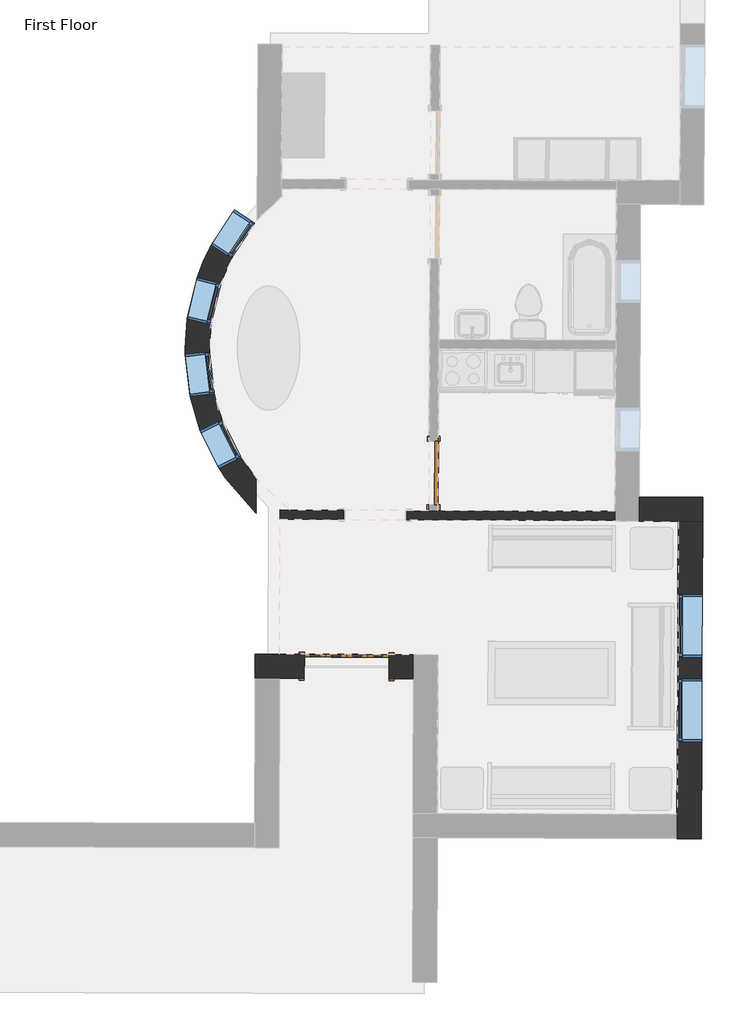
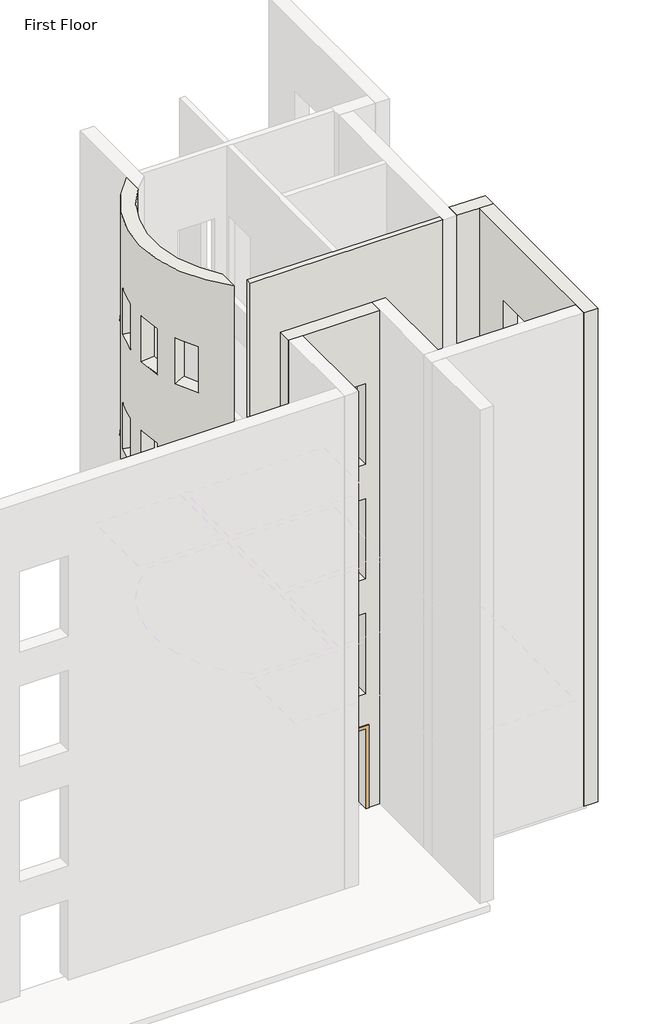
# One storey, part 8 of 23: 6 windows, 5 walls, 2 doors.
"""IFC4 building model written with IfcOpenShell, lengths in millimetres."""

from ifc_helpers import new_model, si_unit, frame, origin, place, context, project, spatial, polyline, circle_curve, faceted_brep, transform, mapped, element, save
from ifc_brep_helpers import plane_surface, cylinder_surface, revolved_surface, advanced_brep
from components import m_bifold_4_panel_1220_x_2134mm_46e1cad3, m_single_flush_0915_x_2134mm_08e0827a, m_fixed_0610_x_1220mm_2c28ef1d, m_fixed_0610_x_1220mm_1ea27827, m_fixed_0915_x_1220mm_bde29121

model = new_model("IFC4")

# Units and contexts
model_context = context("Model", 3, world=origin())
ifc_project = project(units=[si_unit("LENGTHUNIT", "METRE", prefix="MILLI")], contexts=[model_context])

# Site, building, storey
site = spatial("IfcSite", under=ifc_project)
building = spatial("IfcBuilding", under=site)
storey = spatial("IfcBuildingStorey", under=building, Name="First Floor", Elevation=0.0)

# Doors
placement = place(None, origin())
m_bifold_4_panel_1220_x_2134mm_shape = m_bifold_4_panel_1220_x_2134mm_46e1cad3(model_context)
element("IfcDoor", 1, ObjectType="M_Bifold-4 Panel : 1220 x 2134mm", at=placement, inside=storey, context=model_context, shape_type="MappedRepresentation", body=[
    mapped(m_bifold_4_panel_1220_x_2134mm_shape, transform((-9084.0085376, -31158.0124606, 0.0), x_axis=(0.9999905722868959, -0.0043422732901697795, 0.0), y_axis=(0.0043422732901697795, 0.9999905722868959, 0.0), z_axis=(0.0, 0.0, 1.0))),
])
m_single_flush_0915_x_2134mm_shape = m_single_flush_0915_x_2134mm_08e0827a(model_context)
element("IfcDoor", 2, ObjectType="M_Single-Flush : 0915 x 2134mm", at=placement, inside=storey, context=model_context, shape_type="MappedRepresentation", body=[
    mapped(m_single_flush_0915_x_2134mm_shape, transform((-7828.8792601, -28367.4362661, 0.0), x_axis=(-0.004342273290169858, -0.9999905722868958, 0.0), y_axis=(0.9999905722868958, -0.004342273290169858, 0.0), z_axis=(0.0, 0.0, 1.0))),
])

# Walls
element("IfcWall", 3, ObjectType="Exterior - Brick on Mtl. Stud", at=placement, inside=storey, context=model_context, shape_type="Brep", body=[
    faceted_brep([(-4861.2817233, -29065.3289652, 0.0), (-4296.8870443, -29067.7797442, 0.0), (-4131.8885999, -29068.4962193, 0.0), (-3946.890344, -29069.2995399, 0.0), (-3946.890344, -29069.2995399, 13107.0), (-4296.8870443, -29067.7797442, 13107.0), (-4861.2817233, -29065.3289652, 13107.0), (-4859.7619276, -28715.3322649, 0.0), (-4859.7619276, -28715.3322649, 13107.0), (-3945.3705483, -28719.3028396, 13107.0), (-3945.3705483, -28719.3028396, 0.0), (-4130.3688042, -28718.499519, 0.0), (-4860.5652482, -28900.3305208, 0.0), (-3946.1738689, -28904.3010955, 0.0), (-4131.1721248, -28903.4977749, 0.0)], [[[0, 1, 2, 3, 4, 5, 6]], [[7, 8, 9, 10, 11]], [[6, 5, 4, 9, 8]], [[0, 6, 8, 7, 12]], [[4, 3, 13, 10, 9]], [[12, 7, 11, 14]], [[3, 2, 14, 13]], [[14, 11, 10, 13]], [[2, 1, 0, 12, 14]]]),
])
element("IfcWall", 4, ObjectType="Exterior - Brick on Mtl. Stud", at=placement, inside=storey, context=model_context, shape_type="Brep", body=[
    faceted_brep([(-4296.8870443, -29067.7797442, 0.0), (-4315.2201221, -33289.7399404, 0.0), (-4315.9365972, -33454.7383849, 0.0), (-4316.7399178, -33639.7366407, 0.0), (-4316.7399178, -33639.7366407, 13107.0), (-4315.2201221, -33289.7399404, 13107.0), (-4296.8870443, -29067.7797442, 13107.0), (-4305.3931234, -31026.6612763, 915.0), (-4301.4199434, -30111.6699026, 915.0), (-4301.4199434, -30111.6699026, 2135.0), (-4305.3931234, -31026.6612763, 2135.0), (-4310.687223, -32245.849782, 915.0), (-4306.714043, -31330.8584084, 915.0), (-4306.714043, -31330.8584084, 2135.0), (-4310.687223, -32245.849782, 2135.0), (-4310.687223, -32245.849782, 10059.0), (-4306.714043, -31330.8584084, 10059.0), (-4306.714043, -31330.8584084, 11279.0), (-4310.687223, -32245.849782, 11279.0), (-4305.3931234, -31026.6612763, 10059.0), (-4301.4199434, -30111.6699026, 10059.0), (-4301.4199434, -30111.6699026, 11279.0), (-4305.3931234, -31026.6612763, 11279.0), (-4310.687223, -32245.849782, 3963.0), (-4306.714043, -31330.8584084, 3963.0), (-4306.714043, -31330.8584084, 5183.0), (-4310.687223, -32245.849782, 5183.0), (-4305.3931234, -31026.6612763, 3963.0), (-4301.4199434, -30111.6699026, 3963.0), (-4301.4199434, -30111.6699026, 5183.0), (-4305.3931234, -31026.6612763, 5183.0), (-4310.687223, -32245.849782, 7011.0), (-4306.714043, -31330.8584084, 7011.0), (-4306.714043, -31330.8584084, 8231.0), (-4310.687223, -32245.849782, 8231.0), (-4305.3931234, -31026.6612763, 7011.0), (-4301.4199434, -30111.6699026, 7011.0), (-4301.4199434, -30111.6699026, 8231.0), (-4305.3931234, -31026.6612763, 8231.0), (-3946.890344, -29069.2995399, 0.0), (-3946.890344, -29069.2995399, 13107.0), (-3966.7432175, -33641.2564364, 13107.0), (-3966.7432175, -33641.2564364, 0.0), (-3965.9398969, -33456.2581805, 0.0), (-3955.3964231, -31028.1810719, 915.0), (-3955.3964231, -31028.1810719, 2135.0), (-3951.4232431, -30113.1896983, 2135.0), (-3951.4232431, -30113.1896983, 915.0), (-3960.6905227, -32247.3695777, 915.0), (-3960.6905227, -32247.3695777, 2135.0), (-3956.7173427, -31332.378204, 2135.0), (-3956.7173427, -31332.378204, 915.0), (-3960.6905227, -32247.3695777, 10059.0), (-3960.6905227, -32247.3695777, 11279.0), (-3956.7173427, -31332.378204, 11279.0), (-3956.7173427, -31332.378204, 10059.0), (-3955.3964231, -31028.1810719, 10059.0), (-3955.3964231, -31028.1810719, 11279.0), (-3951.4232431, -30113.1896983, 11279.0), (-3951.4232431, -30113.1896983, 10059.0), (-3960.6905227, -32247.3695777, 3963.0), (-3960.6905227, -32247.3695777, 5183.0), (-3956.7173427, -31332.378204, 5183.0), (-3956.7173427, -31332.378204, 3963.0), (-3955.3964231, -31028.1810719, 3963.0), (-3955.3964231, -31028.1810719, 5183.0), (-3951.4232431, -30113.1896983, 5183.0), (-3951.4232431, -30113.1896983, 3963.0), (-3960.6905227, -32247.3695777, 7011.0), (-3960.6905227, -32247.3695777, 8231.0), (-3956.7173427, -31332.378204, 8231.0), (-3956.7173427, -31332.378204, 7011.0), (-3955.3964231, -31028.1810719, 7011.0), (-3955.3964231, -31028.1810719, 8231.0), (-3951.4232431, -30113.1896983, 8231.0), (-3951.4232431, -30113.1896983, 7011.0), (-4131.8885999, -29068.4962193, 0.0), (-4151.7414734, -33640.4531158, 0.0), (-4150.9381528, -33455.45486, 0.0)], [[[0, 1, 2, 3, 4, 5, 6], [7, 8, 9, 10], [11, 12, 13, 14], [15, 16, 17, 18], [19, 20, 21, 22], [23, 24, 25, 26], [27, 28, 29, 30], [31, 32, 33, 34], [35, 36, 37, 38]], [[39, 40, 41, 42, 43], [44, 45, 46, 47], [48, 49, 50, 51], [52, 53, 54, 55], [56, 57, 58, 59], [60, 61, 62, 63], [64, 65, 66, 67], [68, 69, 70, 71], [72, 73, 74, 75]], [[6, 5, 4, 41, 40]], [[0, 6, 40, 39, 76]], [[4, 3, 77, 42, 41]], [[45, 44, 7, 10]], [[46, 45, 10, 9]], [[47, 46, 9, 8]], [[44, 47, 8, 7]], [[49, 48, 11, 14]], [[50, 49, 14, 13]], [[51, 50, 13, 12]], [[48, 51, 12, 11]], [[76, 39, 43, 78]], [[3, 2, 78, 77]], [[78, 43, 42, 77]], [[2, 1, 0, 76, 78]], [[53, 52, 15, 18]], [[54, 53, 18, 17]], [[55, 54, 17, 16]], [[52, 55, 16, 15]], [[57, 56, 19, 22]], [[58, 57, 22, 21]], [[59, 58, 21, 20]], [[56, 59, 20, 19]], [[61, 60, 23, 26]], [[62, 61, 26, 25]], [[63, 62, 25, 24]], [[60, 63, 24, 23]], [[65, 64, 27, 30]], [[66, 65, 30, 29]], [[67, 66, 29, 28]], [[64, 67, 28, 27]], [[69, 68, 31, 34]], [[70, 69, 34, 33]], [[71, 70, 33, 32]], [[68, 71, 32, 31]], [[73, 72, 35, 38]], [[74, 73, 38, 37]], [[75, 74, 37, 36]], [[72, 75, 36, 35]]]),
])
element("IfcWall", 5, ObjectType="Exterior - Brick on Mtl. Stud", at=placement, inside=storey, context=model_context, shape_type="Brep", body=[
    faceted_brep([(-10401.236214, -30977.2909942, 13107.0), (-10051.2395137, -30978.8107899, 13107.0), (-8115.2577658, -30987.217431, 13107.0), (-8115.2577658, -30987.217431, 0.0), (-8473.2543907, -30985.6628971, 0.0), (-8473.2543907, -30985.6628971, 2134.0), (-9693.2428889, -30980.3653237, 2134.0), (-9693.2428889, -30980.3653237, 0.0), (-10051.2395137, -30978.8107899, 0.0), (-10216.2379582, -30978.0943148, 0.0), (-10401.236214, -30977.2909942, 0.0), (-8473.2543907, -30985.6628971, 9144.0), (-8473.2543907, -30985.6628971, 11278.0), (-9693.2428889, -30980.3653237, 11278.0), (-9693.2428889, -30980.3653237, 9144.0), (-8473.2543907, -30985.6628971, 3048.0), (-8473.2543907, -30985.6628971, 5182.0), (-9693.2428889, -30980.3653237, 5182.0), (-9693.2428889, -30980.3653237, 3048.0), (-8473.2543907, -30985.6628971, 6096.0), (-8473.2543907, -30985.6628971, 8230.0), (-9693.2428889, -30980.3653237, 8230.0), (-9693.2428889, -30980.3653237, 6096.0), (-8116.7775614, -31337.2141313, 13107.0), (-10052.7613374, -31328.8074814, 13107.0), (-10402.7560097, -31327.2876945, 13107.0), (-10402.7560097, -31327.2876945, 0.0), (-10217.7577538, -31328.0910151, 0.0), (-10052.7613374, -31328.8074814, 0.0), (-9694.7626845, -31330.362024, 0.0), (-9694.7626845, -31330.362024, 2134.0), (-8474.7741863, -31335.6595974, 2134.0), (-8474.7741863, -31335.6595974, 0.0), (-8116.7775614, -31337.2141313, 0.0), (-8474.7741863, -31335.6595974, 9144.0), (-9694.7626845, -31330.362024, 9144.0), (-9694.7626845, -31330.362024, 11278.0), (-8474.7741863, -31335.6595974, 11278.0), (-8474.7741863, -31335.6595974, 3048.0), (-9694.7626845, -31330.362024, 3048.0), (-9694.7626845, -31330.362024, 5182.0), (-8474.7741863, -31335.6595974, 5182.0), (-8474.7741863, -31335.6595974, 6096.0), (-9694.7626845, -31330.362024, 6096.0), (-9694.7626845, -31330.362024, 8230.0), (-8474.7741863, -31335.6595974, 8230.0), (-8473.9708658, -31150.6613415, 0.0), (-9693.959364, -31145.3637681, 0.0), (-10216.9544333, -31143.0927592, 0.0), (-8115.9742409, -31152.2158754, 0.0), (-10401.9526891, -31142.2894386, 0.0)], [[[0, 1, 2, 3, 4, 5, 6, 7, 8, 9, 10], [11, 12, 13, 14], [15, 16, 17, 18], [19, 20, 21, 22]], [[23, 24, 25, 26, 27, 28, 29, 30, 31, 32, 33], [34, 35, 36, 37], [38, 39, 40, 41], [42, 43, 44, 45]], [[2, 1, 0, 25, 24, 23]], [[31, 5, 4, 46, 32]], [[5, 31, 30, 6]], [[6, 30, 29, 47, 7]], [[27, 48, 47, 29, 28]], [[49, 33, 32, 46]], [[10, 9, 48, 50]], [[27, 26, 50, 48]], [[48, 9, 8, 7, 47]], [[3, 49, 46, 4]], [[12, 11, 34, 37]], [[13, 12, 37, 36]], [[14, 13, 36, 35]], [[11, 14, 35, 34]], [[16, 15, 38, 41]], [[17, 16, 41, 40]], [[18, 17, 40, 39]], [[15, 18, 39, 38]], [[20, 19, 42, 45]], [[21, 20, 45, 44]], [[22, 21, 44, 43]], [[19, 22, 43, 42]], [[3, 2, 23, 33, 49]], [[0, 10, 50, 26, 25]]]),
])
element("IfcWall", 6, ObjectType="Exterior - Brick on Mtl. Stud", at=placement, inside=storey, context=model_context, shape_type="AdvancedBrep", body=[
    advanced_brep(
    [(-10390.2125961, -28438.6405522, 13107.0), (-10374.0738807, -24722.0243435, 13107.0), (-10371.8795021, -24216.6766394, 13107.0), (-10392.4069746, -28943.9882564, 13107.0), (-10374.0738807, -24722.0243435, 0.0), (-10390.2125961, -28438.6405522, 0.0), (-10392.4069746, -28943.9882564, 0.0), (-10371.8795021, -24216.6766394, 0.0), (-10408.8328393, -24763.4304099, 2135.0), (-10408.8328393, -24763.4304099, 915.0), (-10744.4408992, -25272.8096695, 915.0), (-10744.4408992, -25272.8096695, 2135.0), (-10899.7584089, -25632.0856121, 2135.0), (-10899.7584089, -25632.0856121, 915.0), (-11040.9088589, -26225.5302603, 915.0), (-11040.9088589, -26225.5302603, 2135.0), (-10993.64798, -27222.1927833, 915.0), (-10993.64798, -27222.1927833, 2135.0), (-11063.9799673, -26616.2609294, 2135.0), (-11063.9799673, -26616.2609294, 915.0), (-10608.3586219, -28142.5850289, 915.0), (-10608.3586219, -28142.5850289, 2135.0), (-10881.6899709, -27597.2502935, 2135.0), (-10881.6899709, -27597.2502935, 915.0), (-10993.64798, -27222.1927833, 10059.0), (-10993.64798, -27222.1927833, 11279.0), (-11063.9799673, -26616.2609294, 11279.0), (-11063.9799673, -26616.2609294, 10059.0), (-10608.3586219, -28142.5850289, 10059.0), (-10608.3586219, -28142.5850289, 11279.0), (-10881.6899709, -27597.2502935, 11279.0), (-10881.6899709, -27597.2502935, 10059.0), (-10899.7584089, -25632.0856121, 10059.0), (-11040.9088589, -26225.5302603, 10059.0), (-11040.9088589, -26225.5302603, 11279.0), (-10899.7584089, -25632.0856121, 11279.0), (-10408.8328393, -24763.4304099, 10059.0), (-10744.4408992, -25272.8096695, 10059.0), (-10744.4408992, -25272.8096695, 11279.0), (-10408.8328393, -24763.4304099, 11279.0), (-10993.64798, -27222.1927833, 3963.0), (-10993.64798, -27222.1927833, 5183.0), (-11063.9799673, -26616.2609294, 5183.0), (-11063.9799673, -26616.2609294, 3963.0), (-10608.3586219, -28142.5850289, 3963.0), (-10608.3586219, -28142.5850289, 5183.0), (-10881.6899709, -27597.2502935, 5183.0), (-10881.6899709, -27597.2502935, 3963.0), (-10899.7584089, -25632.0856121, 3963.0), (-11040.9088589, -26225.5302603, 3963.0), (-11040.9088589, -26225.5302603, 5183.0), (-10899.7584089, -25632.0856121, 5183.0), (-10408.8328393, -24763.4304099, 3963.0), (-10744.4408992, -25272.8096695, 3963.0), (-10744.4408992, -25272.8096695, 5183.0), (-10408.8328393, -24763.4304099, 5183.0), (-10993.64798, -27222.1927833, 7011.0), (-10993.64798, -27222.1927833, 8231.0), (-11063.9799673, -26616.2609294, 8231.0), (-11063.9799673, -26616.2609294, 7011.0), (-10608.3586219, -28142.5850289, 7011.0), (-10608.3586219, -28142.5850289, 8231.0), (-10881.6899709, -27597.2502935, 8231.0), (-10881.6899709, -27597.2502935, 7011.0), (-10899.7584089, -25632.0856121, 7011.0), (-11040.9088589, -26225.5302603, 7011.0), (-11040.9088589, -26225.5302603, 8231.0), (-10899.7584089, -25632.0856121, 8231.0), (-10408.8328393, -24763.4304099, 7011.0), (-10744.4408992, -25272.8096695, 7011.0), (-10744.4408992, -25272.8096695, 8231.0), (-10408.8328393, -24763.4304099, 8231.0), (-10702.5789245, -24569.8937633, 915.0), (-10702.5789245, -24569.8937633, 2135.0), (-11038.1869844, -25079.2730229, 2135.0), (-11038.1869844, -25079.2730229, 915.0), (-11241.9828692, -25550.6877316, 915.0), (-11241.9828692, -25550.6877316, 2135.0), (-11383.1333192, -26144.1323798, 2135.0), (-11383.1333192, -26144.1323798, 915.0), (-11343.0734947, -27262.7514546, 915.0), (-11413.405482, -26656.8196007, 915.0), (-11413.405482, -26656.8196007, 2135.0), (-11343.0734947, -27262.7514546, 2135.0), (-10922.839317, -28300.2082777, 915.0), (-11196.170666, -27754.8735423, 915.0), (-11196.170666, -27754.8735423, 2135.0), (-10922.839317, -28300.2082777, 2135.0), (-11343.0734947, -27262.7514546, 10059.0), (-11413.405482, -26656.8196007, 10059.0), (-11413.405482, -26656.8196007, 11279.0), (-11343.0734947, -27262.7514546, 11279.0), (-10922.839317, -28300.2082777, 10059.0), (-11196.170666, -27754.8735423, 10059.0), (-11196.170666, -27754.8735423, 11279.0), (-10922.839317, -28300.2082777, 11279.0), (-11241.9828692, -25550.6877316, 10059.0), (-11241.9828692, -25550.6877316, 11279.0), (-11383.1333192, -26144.1323798, 11279.0), (-11383.1333192, -26144.1323798, 10059.0), (-10702.5789245, -24569.8937633, 10059.0), (-10702.5789245, -24569.8937633, 11279.0), (-11038.1869844, -25079.2730229, 11279.0), (-11038.1869844, -25079.2730229, 10059.0), (-11343.0734947, -27262.7514546, 3963.0), (-11413.405482, -26656.8196007, 3963.0), (-11413.405482, -26656.8196007, 5183.0), (-11343.0734947, -27262.7514546, 5183.0), (-10922.839317, -28300.2082777, 3963.0), (-11196.170666, -27754.8735423, 3963.0), (-11196.170666, -27754.8735423, 5183.0), (-10922.839317, -28300.2082777, 5183.0), (-11241.9828692, -25550.6877316, 3963.0), (-11241.9828692, -25550.6877316, 5183.0), (-11383.1333192, -26144.1323798, 5183.0), (-11383.1333192, -26144.1323798, 3963.0), (-10702.5789245, -24569.8937633, 3963.0), (-10702.5789245, -24569.8937633, 5183.0), (-11038.1869844, -25079.2730229, 5183.0), (-11038.1869844, -25079.2730229, 3963.0), (-11343.0734947, -27262.7514546, 7011.0), (-11413.405482, -26656.8196007, 7011.0), (-11413.405482, -26656.8196007, 8231.0), (-11343.0734947, -27262.7514546, 8231.0), (-10922.839317, -28300.2082777, 7011.0), (-11196.170666, -27754.8735423, 7011.0), (-11196.170666, -27754.8735423, 8231.0), (-10922.839317, -28300.2082777, 8231.0), (-11241.9828692, -25550.6877316, 7011.0), (-11241.9828692, -25550.6877316, 8231.0), (-11383.1333192, -26144.1323798, 8231.0), (-11383.1333192, -26144.1323798, 7011.0), (-10702.5789245, -24569.8937633, 7011.0), (-10702.5789245, -24569.8937633, 8231.0), (-11038.1869844, -25079.2730229, 8231.0), (-11038.1869844, -25079.2730229, 7011.0)],
    [
        (0, 1, circle_curve(frame((-8191.1013961, -26589.84664, 13107.0), z_axis=(0.0, 0.0, -1.0), x_axis=(-0.0043422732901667, -0.9999905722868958, 0.0)), 2873.0)),
        (1, 2),
        (2, 3, circle_curve(frame((-8191.1013961, -26589.84664, 13107.0), z_axis=(0.0, 0.0, 1.0), x_axis=(-0.0043422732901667, -0.9999905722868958, 0.0)), 3223.0)),
        (3, 0),
        (4, 5, circle_curve(frame((-8191.1013961, -26589.84664, 0.0), z_axis=(0.0, 0.0, 1.0), x_axis=(-0.0043422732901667, -0.9999905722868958, 0.0)), 2873.0)),
        (5, 6),
        (6, 7, circle_curve(frame((-8191.1013961, -26589.84664, 0.0), z_axis=(0.0, 0.0, -1.0), x_axis=(-0.0043422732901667, -0.9999905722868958, 0.0)), 3223.0)),
        (7, 4),
        (0, 5),
        (4, 1),
        (8, 9),
        (9, 10, circle_curve(frame((-8191.1013961, -26589.84664, 915.0), z_axis=(0.0, 0.0, 1.0), x_axis=(-0.0043422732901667, -0.9999905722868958, 0.0)), 2873.0)),
        (10, 11),
        (11, 8, circle_curve(frame((-8191.1013961, -26589.84664, 2135.0), z_axis=(0.0, 0.0, -1.0), x_axis=(-0.0043422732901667, -0.9999905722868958, 0.0)), 2873.0)),
        (12, 13),
        (13, 14, circle_curve(frame((-8191.1013961, -26589.84664, 915.0), z_axis=(0.0, 0.0, 1.0), x_axis=(-0.0043422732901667, -0.9999905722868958, 0.0)), 2873.0)),
        (14, 15),
        (15, 12, circle_curve(frame((-8191.1013961, -26589.84664, 2135.0), z_axis=(0.0, 0.0, -1.0), x_axis=(-0.0043422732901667, -0.9999905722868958, 0.0)), 2873.0)),
        (16, 17),
        (17, 18, circle_curve(frame((-8191.1013961, -26589.84664, 2135.0), z_axis=(0.0, 0.0, -1.0), x_axis=(-0.0043422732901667, -0.9999905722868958, 0.0)), 2873.0)),
        (18, 19),
        (19, 16, circle_curve(frame((-8191.1013961, -26589.84664, 915.0), z_axis=(0.0, 0.0, 1.0), x_axis=(-0.0043422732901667, -0.9999905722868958, 0.0)), 2873.0)),
        (20, 21),
        (21, 22, circle_curve(frame((-8191.1013961, -26589.84664, 2135.0), z_axis=(0.0, 0.0, -1.0), x_axis=(-0.0043422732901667, -0.9999905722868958, 0.0)), 2873.0)),
        (22, 23),
        (23, 20, circle_curve(frame((-8191.1013961, -26589.84664, 915.0), z_axis=(0.0, 0.0, 1.0), x_axis=(-0.0043422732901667, -0.9999905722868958, 0.0)), 2873.0)),
        (24, 25),
        (25, 26, circle_curve(frame((-8191.1013961, -26589.84664, 11279.0), z_axis=(0.0, 0.0, -1.0), x_axis=(-0.0043422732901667, -0.9999905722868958, 0.0)), 2873.0)),
        (26, 27),
        (27, 24, circle_curve(frame((-8191.1013961, -26589.84664, 10059.0), z_axis=(0.0, 0.0, 1.0), x_axis=(-0.0043422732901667, -0.9999905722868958, 0.0)), 2873.0)),
        (28, 29),
        (29, 30, circle_curve(frame((-8191.1013961, -26589.84664, 11279.0), z_axis=(0.0, 0.0, -1.0), x_axis=(-0.0043422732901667, -0.9999905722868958, 0.0)), 2873.0)),
        (30, 31),
        (31, 28, circle_curve(frame((-8191.1013961, -26589.84664, 10059.0), z_axis=(0.0, 0.0, 1.0), x_axis=(-0.0043422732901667, -0.9999905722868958, 0.0)), 2873.0)),
        (32, 33, circle_curve(frame((-8191.1013961, -26589.84664, 10059.0), z_axis=(0.0, 0.0, 1.0), x_axis=(-0.0043422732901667, -0.9999905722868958, 0.0)), 2873.0)),
        (33, 34),
        (34, 35, circle_curve(frame((-8191.1013961, -26589.84664, 11279.0), z_axis=(0.0, 0.0, -1.0), x_axis=(-0.0043422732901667, -0.9999905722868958, 0.0)), 2873.0)),
        (35, 32),
        (36, 37, circle_curve(frame((-8191.1013961, -26589.84664, 10059.0), z_axis=(0.0, 0.0, 1.0), x_axis=(-0.0043422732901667, -0.9999905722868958, 0.0)), 2873.0)),
        (37, 38),
        (38, 39, circle_curve(frame((-8191.1013961, -26589.84664, 11279.0), z_axis=(0.0, 0.0, -1.0), x_axis=(-0.0043422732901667, -0.9999905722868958, 0.0)), 2873.0)),
        (39, 36),
        (40, 41),
        (41, 42, circle_curve(frame((-8191.1013961, -26589.84664, 5183.0), z_axis=(0.0, 0.0, -1.0), x_axis=(-0.0043422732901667, -0.9999905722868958, 0.0)), 2873.0)),
        (42, 43),
        (43, 40, circle_curve(frame((-8191.1013961, -26589.84664, 3963.0), z_axis=(0.0, 0.0, 1.0), x_axis=(-0.0043422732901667, -0.9999905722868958, 0.0)), 2873.0)),
        (44, 45),
        (45, 46, circle_curve(frame((-8191.1013961, -26589.84664, 5183.0), z_axis=(0.0, 0.0, -1.0), x_axis=(-0.0043422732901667, -0.9999905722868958, 0.0)), 2873.0)),
        (46, 47),
        (47, 44, circle_curve(frame((-8191.1013961, -26589.84664, 3963.0), z_axis=(0.0, 0.0, 1.0), x_axis=(-0.0043422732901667, -0.9999905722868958, 0.0)), 2873.0)),
        (48, 49, circle_curve(frame((-8191.1013961, -26589.84664, 3963.0), z_axis=(0.0, 0.0, 1.0), x_axis=(-0.0043422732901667, -0.9999905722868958, 0.0)), 2873.0)),
        (49, 50),
        (50, 51, circle_curve(frame((-8191.1013961, -26589.84664, 5183.0), z_axis=(0.0, 0.0, -1.0), x_axis=(-0.0043422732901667, -0.9999905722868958, 0.0)), 2873.0)),
        (51, 48),
        (52, 53, circle_curve(frame((-8191.1013961, -26589.84664, 3963.0), z_axis=(0.0, 0.0, 1.0), x_axis=(-0.0043422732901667, -0.9999905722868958, 0.0)), 2873.0)),
        (53, 54),
        (54, 55, circle_curve(frame((-8191.1013961, -26589.84664, 5183.0), z_axis=(0.0, 0.0, -1.0), x_axis=(-0.0043422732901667, -0.9999905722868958, 0.0)), 2873.0)),
        (55, 52),
        (56, 57),
        (57, 58, circle_curve(frame((-8191.1013961, -26589.84664, 8231.0), z_axis=(0.0, 0.0, -1.0), x_axis=(-0.0043422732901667, -0.9999905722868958, 0.0)), 2873.0)),
        (58, 59),
        (59, 56, circle_curve(frame((-8191.1013961, -26589.84664, 7011.0), z_axis=(0.0, 0.0, 1.0), x_axis=(-0.0043422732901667, -0.9999905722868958, 0.0)), 2873.0)),
        (60, 61),
        (61, 62, circle_curve(frame((-8191.1013961, -26589.84664, 8231.0), z_axis=(0.0, 0.0, -1.0), x_axis=(-0.0043422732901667, -0.9999905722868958, 0.0)), 2873.0)),
        (62, 63),
        (63, 60, circle_curve(frame((-8191.1013961, -26589.84664, 7011.0), z_axis=(0.0, 0.0, 1.0), x_axis=(-0.0043422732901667, -0.9999905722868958, 0.0)), 2873.0)),
        (64, 65, circle_curve(frame((-8191.1013961, -26589.84664, 7011.0), z_axis=(0.0, 0.0, 1.0), x_axis=(-0.0043422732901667, -0.9999905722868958, 0.0)), 2873.0)),
        (65, 66),
        (66, 67, circle_curve(frame((-8191.1013961, -26589.84664, 8231.0), z_axis=(0.0, 0.0, -1.0), x_axis=(-0.0043422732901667, -0.9999905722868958, 0.0)), 2873.0)),
        (67, 64),
        (68, 69, circle_curve(frame((-8191.1013961, -26589.84664, 7011.0), z_axis=(0.0, 0.0, 1.0), x_axis=(-0.0043422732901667, -0.9999905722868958, 0.0)), 2873.0)),
        (69, 70),
        (70, 71, circle_curve(frame((-8191.1013961, -26589.84664, 8231.0), z_axis=(0.0, 0.0, -1.0), x_axis=(-0.0043422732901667, -0.9999905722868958, 0.0)), 2873.0)),
        (71, 68),
        (2, 7),
        (6, 3),
        (72, 73),
        (73, 74, circle_curve(frame((-8191.1013961, -26589.84664, 2135.0), z_axis=(0.0, 0.0, 1.0), x_axis=(-0.0043422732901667, -0.9999905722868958, 0.0)), 3223.0)),
        (74, 75),
        (75, 72, circle_curve(frame((-8191.1013961, -26589.84664, 915.0), z_axis=(0.0, 0.0, -1.0), x_axis=(-0.0043422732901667, -0.9999905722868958, 0.0)), 3223.0)),
        (76, 77),
        (77, 78, circle_curve(frame((-8191.1013961, -26589.84664, 2135.0), z_axis=(0.0, 0.0, 1.0), x_axis=(-0.0043422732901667, -0.9999905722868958, 0.0)), 3223.0)),
        (78, 79),
        (79, 76, circle_curve(frame((-8191.1013961, -26589.84664, 915.0), z_axis=(0.0, 0.0, -1.0), x_axis=(-0.0043422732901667, -0.9999905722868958, 0.0)), 3223.0)),
        (80, 81, circle_curve(frame((-8191.1013961, -26589.84664, 915.0), z_axis=(0.0, 0.0, -1.0), x_axis=(-0.0043422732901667, -0.9999905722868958, 0.0)), 3223.0)),
        (81, 82),
        (82, 83, circle_curve(frame((-8191.1013961, -26589.84664, 2135.0), z_axis=(0.0, 0.0, 1.0), x_axis=(-0.0043422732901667, -0.9999905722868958, 0.0)), 3223.0)),
        (83, 80),
        (84, 85, circle_curve(frame((-8191.1013961, -26589.84664, 915.0), z_axis=(0.0, 0.0, -1.0), x_axis=(-0.0043422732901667, -0.9999905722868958, 0.0)), 3223.0)),
        (85, 86),
        (86, 87, circle_curve(frame((-8191.1013961, -26589.84664, 2135.0), z_axis=(0.0, 0.0, 1.0), x_axis=(-0.0043422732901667, -0.9999905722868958, 0.0)), 3223.0)),
        (87, 84),
        (88, 89, circle_curve(frame((-8191.1013961, -26589.84664, 10059.0), z_axis=(0.0, 0.0, -1.0), x_axis=(-0.0043422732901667, -0.9999905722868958, 0.0)), 3223.0)),
        (89, 90),
        (90, 91, circle_curve(frame((-8191.1013961, -26589.84664, 11279.0), z_axis=(0.0, 0.0, 1.0), x_axis=(-0.0043422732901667, -0.9999905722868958, 0.0)), 3223.0)),
        (91, 88),
        (92, 93, circle_curve(frame((-8191.1013961, -26589.84664, 10059.0), z_axis=(0.0, 0.0, -1.0), x_axis=(-0.0043422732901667, -0.9999905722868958, 0.0)), 3223.0)),
        (93, 94),
        (94, 95, circle_curve(frame((-8191.1013961, -26589.84664, 11279.0), z_axis=(0.0, 0.0, 1.0), x_axis=(-0.0043422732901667, -0.9999905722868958, 0.0)), 3223.0)),
        (95, 92),
        (96, 97),
        (97, 98, circle_curve(frame((-8191.1013961, -26589.84664, 11279.0), z_axis=(0.0, 0.0, 1.0), x_axis=(-0.0043422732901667, -0.9999905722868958, 0.0)), 3223.0)),
        (98, 99),
        (99, 96, circle_curve(frame((-8191.1013961, -26589.84664, 10059.0), z_axis=(0.0, 0.0, -1.0), x_axis=(-0.0043422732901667, -0.9999905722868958, 0.0)), 3223.0)),
        (100, 101),
        (101, 102, circle_curve(frame((-8191.1013961, -26589.84664, 11279.0), z_axis=(0.0, 0.0, 1.0), x_axis=(-0.0043422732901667, -0.9999905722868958, 0.0)), 3223.0)),
        (102, 103),
        (103, 100, circle_curve(frame((-8191.1013961, -26589.84664, 10059.0), z_axis=(0.0, 0.0, -1.0), x_axis=(-0.0043422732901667, -0.9999905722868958, 0.0)), 3223.0)),
        (104, 105, circle_curve(frame((-8191.1013961, -26589.84664, 3963.0), z_axis=(0.0, 0.0, -1.0), x_axis=(-0.0043422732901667, -0.9999905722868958, 0.0)), 3223.0)),
        (105, 106),
        (106, 107, circle_curve(frame((-8191.1013961, -26589.84664, 5183.0), z_axis=(0.0, 0.0, 1.0), x_axis=(-0.0043422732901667, -0.9999905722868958, 0.0)), 3223.0)),
        (107, 104),
        (108, 109, circle_curve(frame((-8191.1013961, -26589.84664, 3963.0), z_axis=(0.0, 0.0, -1.0), x_axis=(-0.0043422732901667, -0.9999905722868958, 0.0)), 3223.0)),
        (109, 110),
        (110, 111, circle_curve(frame((-8191.1013961, -26589.84664, 5183.0), z_axis=(0.0, 0.0, 1.0), x_axis=(-0.0043422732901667, -0.9999905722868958, 0.0)), 3223.0)),
        (111, 108),
        (112, 113),
        (113, 114, circle_curve(frame((-8191.1013961, -26589.84664, 5183.0), z_axis=(0.0, 0.0, 1.0), x_axis=(-0.0043422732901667, -0.9999905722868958, 0.0)), 3223.0)),
        (114, 115),
        (115, 112, circle_curve(frame((-8191.1013961, -26589.84664, 3963.0), z_axis=(0.0, 0.0, -1.0), x_axis=(-0.0043422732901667, -0.9999905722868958, 0.0)), 3223.0)),
        (116, 117),
        (117, 118, circle_curve(frame((-8191.1013961, -26589.84664, 5183.0), z_axis=(0.0, 0.0, 1.0), x_axis=(-0.0043422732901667, -0.9999905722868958, 0.0)), 3223.0)),
        (118, 119),
        (119, 116, circle_curve(frame((-8191.1013961, -26589.84664, 3963.0), z_axis=(0.0, 0.0, -1.0), x_axis=(-0.0043422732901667, -0.9999905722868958, 0.0)), 3223.0)),
        (120, 121, circle_curve(frame((-8191.1013961, -26589.84664, 7011.0), z_axis=(0.0, 0.0, -1.0), x_axis=(-0.0043422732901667, -0.9999905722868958, 0.0)), 3223.0)),
        (121, 122),
        (122, 123, circle_curve(frame((-8191.1013961, -26589.84664, 8231.0), z_axis=(0.0, 0.0, 1.0), x_axis=(-0.0043422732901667, -0.9999905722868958, 0.0)), 3223.0)),
        (123, 120),
        (124, 125, circle_curve(frame((-8191.1013961, -26589.84664, 7011.0), z_axis=(0.0, 0.0, -1.0), x_axis=(-0.0043422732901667, -0.9999905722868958, 0.0)), 3223.0)),
        (125, 126),
        (126, 127, circle_curve(frame((-8191.1013961, -26589.84664, 8231.0), z_axis=(0.0, 0.0, 1.0), x_axis=(-0.0043422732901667, -0.9999905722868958, 0.0)), 3223.0)),
        (127, 124),
        (128, 129),
        (129, 130, circle_curve(frame((-8191.1013961, -26589.84664, 8231.0), z_axis=(0.0, 0.0, 1.0), x_axis=(-0.0043422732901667, -0.9999905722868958, 0.0)), 3223.0)),
        (130, 131),
        (131, 128, circle_curve(frame((-8191.1013961, -26589.84664, 7011.0), z_axis=(0.0, 0.0, -1.0), x_axis=(-0.0043422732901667, -0.9999905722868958, 0.0)), 3223.0)),
        (132, 133),
        (133, 134, circle_curve(frame((-8191.1013961, -26589.84664, 8231.0), z_axis=(0.0, 0.0, 1.0), x_axis=(-0.0043422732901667, -0.9999905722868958, 0.0)), 3223.0)),
        (134, 135),
        (135, 132, circle_curve(frame((-8191.1013961, -26589.84664, 7011.0), z_axis=(0.0, 0.0, -1.0), x_axis=(-0.0043422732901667, -0.9999905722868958, 0.0)), 3223.0)),
        (72, 9),
        (8, 73),
        (11, 74),
        (10, 75),
        (76, 13),
        (12, 77),
        (15, 78),
        (14, 79),
        (16, 80),
        (83, 17),
        (82, 18),
        (81, 19),
        (20, 84),
        (87, 21),
        (86, 22),
        (85, 23),
        (24, 88),
        (91, 25),
        (90, 26),
        (89, 27),
        (28, 92),
        (95, 29),
        (94, 30),
        (93, 31),
        (96, 32),
        (35, 97),
        (34, 98),
        (33, 99),
        (100, 36),
        (39, 101),
        (38, 102),
        (37, 103),
        (40, 104),
        (107, 41),
        (106, 42),
        (105, 43),
        (44, 108),
        (111, 45),
        (110, 46),
        (109, 47),
        (112, 48),
        (51, 113),
        (50, 114),
        (49, 115),
        (116, 52),
        (55, 117),
        (54, 118),
        (53, 119),
        (56, 120),
        (123, 57),
        (122, 58),
        (121, 59),
        (60, 124),
        (127, 61),
        (126, 62),
        (125, 63),
        (128, 64),
        (67, 129),
        (66, 130),
        (65, 131),
        (132, 68),
        (71, 133),
        (70, 134),
        (69, 135),
    ],
    [
        plane_surface(frame((-8203.5767472, -29462.8195542, 13107.0), z_axis=(0.0, 0.0, 1.0000000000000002), x_axis=(-0.9999905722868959, 0.004342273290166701, 0.0))),
        plane_surface(frame((-8203.5767472, -29462.8195542, 0.0), z_axis=(0.0, 0.0, -1.0000000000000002), x_axis=(0.9999905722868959, -0.004342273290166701, 0.0))),
        revolved_surface(polyline([(-8203.576747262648, -29462.819554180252, 0.0), (-8203.576747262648, -29462.819554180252, 13107.0)]), (-8191.1013961, -26589.84664, 0.0), (0.0, 0.0, -1.0)),
        cylinder_surface(frame((-8191.1013961, -26589.84664, 0.0), z_axis=(0.0, 0.0, 1.0), x_axis=(-0.0043422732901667, -0.9999905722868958, 0.0)), 3223.0),
        plane_surface(frame((-10401.9961119, -31152.2893444, 0.0), z_axis=(0.9999905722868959, -0.004342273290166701, 0.0), x_axis=(-0.004342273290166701, -0.9999905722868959, 0.0))),
        plane_surface(frame((-10362.2903649, -22008.3755514, 0.0), z_axis=(0.9999905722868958, -0.0043422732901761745, 0.0), x_axis=(-0.0043422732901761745, -0.9999905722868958, 0.0))),
        plane_surface(frame((-10702.5789245, -24569.8937633, 915.0), z_axis=(-0.5501771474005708, -0.8350479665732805, 0.0), x_axis=(0.8350479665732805, -0.5501771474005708, 0.0))),
        plane_surface(frame((-10702.5789245, -24569.8937633, 2135.0), z_axis=(0.0, 0.0, -1.0000000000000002), x_axis=(0.8350479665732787, -0.5501771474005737, 0.0))),
        plane_surface(frame((-11038.1869844, -25079.2730229, 2135.0), z_axis=(0.5501771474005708, 0.8350479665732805, 0.0), x_axis=(0.8350479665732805, -0.5501771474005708, 0.0))),
        plane_surface(frame((-11038.1869844, -25079.2730229, 915.0), z_axis=(0.0, 0.0, 1.0), x_axis=(0.8350479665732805, -0.5501771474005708, 0.0))),
        plane_surface(frame((-9757.6206762, -25903.7423798, 915.0), z_axis=(-0.23139418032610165, -0.9728600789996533, 0.0), x_axis=(-0.9728600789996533, 0.23139418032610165, 0.0))),
        plane_surface(frame((-9757.6206762, -25903.7423798, 2135.0), z_axis=(0.0, 0.0, -1.0000000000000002), x_axis=(-0.9728600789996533, 0.23139418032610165, 0.0))),
        plane_surface(frame((-9898.7711262, -26497.187028, 2135.0), z_axis=(0.23139418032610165, 0.9728600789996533, 0.0), x_axis=(-0.9728600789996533, 0.23139418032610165, 0.0))),
        plane_surface(frame((-9898.7711262, -26497.187028, 915.0), z_axis=(0.0, 0.0, 1.0000000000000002), x_axis=(-0.9728600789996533, 0.23139418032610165, 0.0))),
        plane_surface(frame((-10993.64798, -27222.1927833, 915.0), z_axis=(-0.11529833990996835, 0.9933309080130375, 0.0), x_axis=(-0.9933309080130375, -0.11529833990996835, 0.0))),
        plane_surface(frame((-10993.64798, -27222.1927833, 2135.0), z_axis=(0.0, 0.0, -1.0), x_axis=(-0.993330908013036, -0.1152983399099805, 0.0))),
        plane_surface(frame((-11063.9799673, -26616.2609294, 2135.0), z_axis=(0.1152983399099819, -0.9933309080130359, 0.0), x_axis=(-0.9933309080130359, -0.1152983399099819, 0.0))),
        plane_surface(frame((-11063.9799673, -26616.2609294, 915.0), z_axis=(0.0, 0.0, 1.0000000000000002), x_axis=(-0.9933309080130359, -0.1152983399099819, 0.0))),
        plane_surface(frame((-10608.3586219, -28142.5850289, 915.0), z_axis=(-0.4480841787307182, 0.8939913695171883, 0.0), x_axis=(-0.8939913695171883, -0.4480841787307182, 0.0))),
        plane_surface(frame((-10608.3586219, -28142.5850289, 2135.0), z_axis=(0.0, 0.0, -1.0), x_axis=(-0.8939913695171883, -0.4480841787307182, 0.0))),
        plane_surface(frame((-10881.6899709, -27597.2502935, 2135.0), z_axis=(0.44808417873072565, -0.8939913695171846, 0.0), x_axis=(-0.8939913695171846, -0.44808417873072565, 0.0))),
        plane_surface(frame((-10881.6899709, -27597.2502935, 915.0), z_axis=(0.0, 0.0, 1.0000000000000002), x_axis=(-0.8939913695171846, -0.44808417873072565, 0.0))),
        plane_surface(frame((-10993.64798, -27222.1927833, 10059.0), z_axis=(-0.1152983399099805, 0.993330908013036, 0.0), x_axis=(-0.993330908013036, -0.1152983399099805, 0.0))),
        plane_surface(frame((-10993.64798, -27222.1927833, 11279.0), z_axis=(0.0, 0.0, -1.0), x_axis=(-0.993330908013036, -0.1152983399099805, 0.0))),
        plane_surface(frame((-11063.9799673, -26616.2609294, 11279.0), z_axis=(0.11529833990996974, -0.9933309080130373, 0.0), x_axis=(-0.9933309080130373, -0.11529833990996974, 0.0))),
        plane_surface(frame((-11063.9799673, -26616.2609294, 10059.0), z_axis=(0.0, 0.0, 1.0), x_axis=(-0.9933309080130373, -0.11529833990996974, 0.0))),
        plane_surface(frame((-10608.3586219, -28142.5850289, 10059.0), z_axis=(-0.4480841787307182, 0.8939913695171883, 0.0), x_axis=(-0.8939913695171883, -0.4480841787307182, 0.0))),
        plane_surface(frame((-10608.3586219, -28142.5850289, 11279.0), z_axis=(0.0, 0.0, -1.0000000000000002), x_axis=(-0.8939913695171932, -0.4480841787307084, 0.0))),
        plane_surface(frame((-10881.6899709, -27597.2502935, 11279.0), z_axis=(0.4480841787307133, -0.8939913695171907, 0.0), x_axis=(-0.8939913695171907, -0.4480841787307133, 0.0))),
        plane_surface(frame((-10881.6899709, -27597.2502935, 10059.0), z_axis=(0.0, 0.0, 1.0), x_axis=(-0.8939913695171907, -0.4480841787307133, 0.0))),
        plane_surface(frame((-11241.9828692, -25550.6877316, 10059.0), z_axis=(-0.23139418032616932, -0.9728600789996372, 0.0), x_axis=(0.9728600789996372, -0.23139418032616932, 0.0))),
        plane_surface(frame((-11241.9828692, -25550.6877316, 11279.0), z_axis=(0.0, 0.0, -1.0000000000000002), x_axis=(0.9728600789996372, -0.23139418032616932, 0.0))),
        plane_surface(frame((-11383.1333192, -26144.1323798, 11279.0), z_axis=(0.2313941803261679, 0.9728600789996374, 0.0), x_axis=(0.9728600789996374, -0.2313941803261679, 0.0))),
        plane_surface(frame((-11383.1333192, -26144.1323798, 10059.0), z_axis=(0.0, 0.0, 1.0), x_axis=(0.9728600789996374, -0.2313941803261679, 0.0))),
        plane_surface(frame((-10702.5789245, -24569.8937633, 10059.0), z_axis=(-0.5501771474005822, -0.8350479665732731, 0.0), x_axis=(0.8350479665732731, -0.5501771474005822, 0.0))),
        plane_surface(frame((-10702.5789245, -24569.8937633, 11279.0), z_axis=(0.0, 0.0, -1.0), x_axis=(0.8350479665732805, -0.5501771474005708, 0.0))),
        plane_surface(frame((-11038.1869844, -25079.2730229, 11279.0), z_axis=(0.5501771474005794, 0.835047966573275, 0.0), x_axis=(0.835047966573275, -0.5501771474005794, 0.0))),
        plane_surface(frame((-11038.1869844, -25079.2730229, 10059.0), z_axis=(0.0, 0.0, 1.0000000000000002), x_axis=(0.835047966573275, -0.5501771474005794, 0.0))),
        plane_surface(frame((-10993.64798, -27222.1927833, 3963.0), z_axis=(-0.1152983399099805, 0.993330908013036, 0.0), x_axis=(-0.993330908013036, -0.1152983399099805, 0.0))),
        plane_surface(frame((-10993.64798, -27222.1927833, 5183.0), z_axis=(0.0, 0.0, -1.0), x_axis=(-0.993330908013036, -0.1152983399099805, 0.0))),
        plane_surface(frame((-11063.9799673, -26616.2609294, 5183.0), z_axis=(0.11529833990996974, -0.9933309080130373, 0.0), x_axis=(-0.9933309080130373, -0.11529833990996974, 0.0))),
        plane_surface(frame((-11063.9799673, -26616.2609294, 3963.0), z_axis=(0.0, 0.0, 1.0), x_axis=(-0.9933309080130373, -0.11529833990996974, 0.0))),
        plane_surface(frame((-10608.3586219, -28142.5850289, 3963.0), z_axis=(-0.4480841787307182, 0.8939913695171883, 0.0), x_axis=(-0.8939913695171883, -0.4480841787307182, 0.0))),
        plane_surface(frame((-10608.3586219, -28142.5850289, 5183.0), z_axis=(0.0, 0.0, -1.0000000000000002), x_axis=(-0.8939913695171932, -0.4480841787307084, 0.0))),
        plane_surface(frame((-10881.6899709, -27597.2502935, 5183.0), z_axis=(0.4480841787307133, -0.8939913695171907, 0.0), x_axis=(-0.8939913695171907, -0.4480841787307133, 0.0))),
        plane_surface(frame((-10881.6899709, -27597.2502935, 3963.0), z_axis=(0.0, 0.0, 1.0), x_axis=(-0.8939913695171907, -0.4480841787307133, 0.0))),
        plane_surface(frame((-11241.9828692, -25550.6877316, 3963.0), z_axis=(-0.23139418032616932, -0.9728600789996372, 0.0), x_axis=(0.9728600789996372, -0.23139418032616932, 0.0))),
        plane_surface(frame((-11241.9828692, -25550.6877316, 5183.0), z_axis=(0.0, 0.0, -1.0000000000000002), x_axis=(0.9728600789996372, -0.23139418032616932, 0.0))),
        plane_surface(frame((-11383.1333192, -26144.1323798, 5183.0), z_axis=(0.2313941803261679, 0.9728600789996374, 0.0), x_axis=(0.9728600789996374, -0.2313941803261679, 0.0))),
        plane_surface(frame((-11383.1333192, -26144.1323798, 3963.0), z_axis=(0.0, 0.0, 1.0), x_axis=(0.9728600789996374, -0.2313941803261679, 0.0))),
        plane_surface(frame((-10702.5789245, -24569.8937633, 3963.0), z_axis=(-0.5501771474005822, -0.8350479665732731, 0.0), x_axis=(0.8350479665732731, -0.5501771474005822, 0.0))),
        plane_surface(frame((-10702.5789245, -24569.8937633, 5183.0), z_axis=(0.0, 0.0, -1.0), x_axis=(0.8350479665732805, -0.5501771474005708, 0.0))),
        plane_surface(frame((-11038.1869844, -25079.2730229, 5183.0), z_axis=(0.5501771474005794, 0.835047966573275, 0.0), x_axis=(0.835047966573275, -0.5501771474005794, 0.0))),
        plane_surface(frame((-11038.1869844, -25079.2730229, 3963.0), z_axis=(0.0, 0.0, 1.0000000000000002), x_axis=(0.835047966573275, -0.5501771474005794, 0.0))),
        plane_surface(frame((-10993.64798, -27222.1927833, 7011.0), z_axis=(-0.1152983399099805, 0.993330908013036, 0.0), x_axis=(-0.993330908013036, -0.1152983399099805, 0.0))),
        plane_surface(frame((-10993.64798, -27222.1927833, 8231.0), z_axis=(0.0, 0.0, -1.0), x_axis=(-0.993330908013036, -0.1152983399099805, 0.0))),
        plane_surface(frame((-11063.9799673, -26616.2609294, 8231.0), z_axis=(0.11529833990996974, -0.9933309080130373, 0.0), x_axis=(-0.9933309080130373, -0.11529833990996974, 0.0))),
        plane_surface(frame((-11063.9799673, -26616.2609294, 7011.0), z_axis=(0.0, 0.0, 1.0), x_axis=(-0.9933309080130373, -0.11529833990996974, 0.0))),
        plane_surface(frame((-10608.3586219, -28142.5850289, 7011.0), z_axis=(-0.4480841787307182, 0.8939913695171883, 0.0), x_axis=(-0.8939913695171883, -0.4480841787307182, 0.0))),
        plane_surface(frame((-10608.3586219, -28142.5850289, 8231.0), z_axis=(0.0, 0.0, -1.0000000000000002), x_axis=(-0.8939913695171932, -0.4480841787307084, 0.0))),
        plane_surface(frame((-10881.6899709, -27597.2502935, 8231.0), z_axis=(0.4480841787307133, -0.8939913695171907, 0.0), x_axis=(-0.8939913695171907, -0.4480841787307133, 0.0))),
        plane_surface(frame((-10881.6899709, -27597.2502935, 7011.0), z_axis=(0.0, 0.0, 1.0), x_axis=(-0.8939913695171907, -0.4480841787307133, 0.0))),
        plane_surface(frame((-11241.9828692, -25550.6877316, 7011.0), z_axis=(-0.23139418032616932, -0.9728600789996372, 0.0), x_axis=(0.9728600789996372, -0.23139418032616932, 0.0))),
        plane_surface(frame((-11241.9828692, -25550.6877316, 8231.0), z_axis=(0.0, 0.0, -1.0000000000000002), x_axis=(0.9728600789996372, -0.23139418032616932, 0.0))),
        plane_surface(frame((-11383.1333192, -26144.1323798, 8231.0), z_axis=(0.2313941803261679, 0.9728600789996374, 0.0), x_axis=(0.9728600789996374, -0.2313941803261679, 0.0))),
        plane_surface(frame((-11383.1333192, -26144.1323798, 7011.0), z_axis=(0.0, 0.0, 1.0), x_axis=(0.9728600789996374, -0.2313941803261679, 0.0))),
        plane_surface(frame((-10702.5789245, -24569.8937633, 7011.0), z_axis=(-0.5501771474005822, -0.8350479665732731, 0.0), x_axis=(0.8350479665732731, -0.5501771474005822, 0.0))),
        plane_surface(frame((-10702.5789245, -24569.8937633, 8231.0), z_axis=(0.0, 0.0, -1.0), x_axis=(0.8350479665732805, -0.5501771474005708, 0.0))),
        plane_surface(frame((-11038.1869844, -25079.2730229, 8231.0), z_axis=(0.5501771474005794, 0.835047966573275, 0.0), x_axis=(0.835047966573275, -0.5501771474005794, 0.0))),
        plane_surface(frame((-11038.1869844, -25079.2730229, 7011.0), z_axis=(0.0, 0.0, 1.0000000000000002), x_axis=(0.835047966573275, -0.5501771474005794, 0.0))),
    ],
    [
        (0, [[1, 2, 3, 4]]),
        (1, [[5, 6, 7, 8]]),
        (2, [[-1, 9, -5, 10], [11, 12, 13, 14], [15, 16, 17, 18], [19, 20, 21, 22], [23, 24, 25, 26], [27, 28, 29, 30], [31, 32, 33, 34], [35, 36, 37, 38], [39, 40, 41, 42], [43, 44, 45, 46], [47, 48, 49, 50], [51, 52, 53, 54], [55, 56, 57, 58], [59, 60, 61, 62], [63, 64, 65, 66], [67, 68, 69, 70], [71, 72, 73, 74]]),
        (3, [[-3, 75, -7, 76], [77, 78, 79, 80], [81, 82, 83, 84], [85, 86, 87, 88], [89, 90, 91, 92], [93, 94, 95, 96], [97, 98, 99, 100], [101, 102, 103, 104], [105, 106, 107, 108], [109, 110, 111, 112], [113, 114, 115, 116], [117, 118, 119, 120], [121, 122, 123, 124], [125, 126, 127, 128], [129, 130, 131, 132], [133, 134, 135, 136], [137, 138, 139, 140]]),
        (4, [[-4, -76, -6, -9]]),
        (5, [[-2, -10, -8, -75]]),
        (6, [[-77, 141, -11, 142]]),
        (7, [[-78, -142, -14, 143]]),
        (8, [[-79, -143, -13, 144]]),
        (9, [[-80, -144, -12, -141]]),
        (10, [[145, -15, 146, -81]]),
        (11, [[-146, -18, 147, -82]]),
        (12, [[-147, -17, 148, -83]]),
        (13, [[-145, -84, -148, -16]]),
        (14, [[-19, 149, -88, 150]]),
        (15, [[-20, -150, -87, 151]]),
        (16, [[-21, -151, -86, 152]]),
        (17, [[-22, -152, -85, -149]]),
        (18, [[-23, 153, -92, 154]]),
        (19, [[-24, -154, -91, 155]]),
        (20, [[-25, -155, -90, 156]]),
        (21, [[-26, -156, -89, -153]]),
        (22, [[-27, 157, -96, 158]]),
        (23, [[-28, -158, -95, 159]]),
        (24, [[-29, -159, -94, 160]]),
        (25, [[-30, -160, -93, -157]]),
        (26, [[-31, 161, -100, 162]]),
        (27, [[-32, -162, -99, 163]]),
        (28, [[-33, -163, -98, 164]]),
        (29, [[-34, -164, -97, -161]]),
        (30, [[-101, 165, -38, 166]]),
        (31, [[-102, -166, -37, 167]]),
        (32, [[-103, -167, -36, 168]]),
        (33, [[-104, -168, -35, -165]]),
        (34, [[-105, 169, -42, 170]]),
        (35, [[-106, -170, -41, 171]]),
        (36, [[-107, -171, -40, 172]]),
        (37, [[-108, -172, -39, -169]]),
        (38, [[-43, 173, -112, 174]]),
        (39, [[-44, -174, -111, 175]]),
        (40, [[-45, -175, -110, 176]]),
        (41, [[-46, -176, -109, -173]]),
        (42, [[-47, 177, -116, 178]]),
        (43, [[-48, -178, -115, 179]]),
        (44, [[-49, -179, -114, 180]]),
        (45, [[-50, -180, -113, -177]]),
        (46, [[-117, 181, -54, 182]]),
        (47, [[-118, -182, -53, 183]]),
        (48, [[-119, -183, -52, 184]]),
        (49, [[-120, -184, -51, -181]]),
        (50, [[-121, 185, -58, 186]]),
        (51, [[-122, -186, -57, 187]]),
        (52, [[-123, -187, -56, 188]]),
        (53, [[-124, -188, -55, -185]]),
        (54, [[-59, 189, -128, 190]]),
        (55, [[-60, -190, -127, 191]]),
        (56, [[-61, -191, -126, 192]]),
        (57, [[-62, -192, -125, -189]]),
        (58, [[-63, 193, -132, 194]]),
        (59, [[-64, -194, -131, 195]]),
        (60, [[-65, -195, -130, 196]]),
        (61, [[-66, -196, -129, -193]]),
        (62, [[-133, 197, -70, 198]]),
        (63, [[-134, -198, -69, 199]]),
        (64, [[-135, -199, -68, 200]]),
        (65, [[-136, -200, -67, -197]]),
        (66, [[-137, 201, -74, 202]]),
        (67, [[-138, -202, -73, 203]]),
        (68, [[-139, -203, -72, 204]]),
        (69, [[-140, -204, -71, -201]]),
    ],
),
])
element("IfcWall", 7, ObjectType="Interior - 135mm Partition (2-hr)", at=placement, inside=storey, context=model_context, shape_type="Brep", body=[
    faceted_brep([(-9126.9216423, -28904.0548705, 2134.0), (-9126.9216423, -28904.0548705, 0.0), (-10042.2130131, -28900.0803877, 0.0), (-10042.2130131, -28900.0803877, 13107.0), (-7898.9832191, -28909.3869649, 13107.0), (-7763.4844965, -28909.975343, 13107.0), (-5210.6585641, -28921.0605153, 13107.0), (-5210.6585641, -28921.0605153, 0.0), (-7763.4844965, -28909.975343, 0.0), (-7898.9832191, -28909.3869649, 0.0), (-8211.9302687, -28908.0280505, 0.0), (-8211.9302687, -28908.0280505, 2134.0), (-8211.9302687, -28908.0280505, 11278.0), (-9126.9216423, -28904.0548705, 11278.0), (-9126.9216423, -28904.0548705, 9144.0), (-8211.9302687, -28908.0280505, 9144.0), (-8211.9302687, -28908.0280505, 5182.0), (-9126.9216423, -28904.0548705, 5182.0), (-9126.9216423, -28904.0548705, 3048.0), (-8211.9302687, -28908.0280505, 3048.0), (-8211.9302687, -28908.0280505, 8230.0), (-9126.9216423, -28904.0548705, 8230.0), (-9126.9216423, -28904.0548705, 6096.0), (-8211.9302687, -28908.0280505, 6096.0), (-10042.8013912, -29035.5791103, 0.0), (-9127.5100204, -29039.553593, 0.0), (-9127.5100204, -29039.553593, 2134.0), (-8212.5186467, -29043.5267731, 2134.0), (-8212.5186467, -29043.5267731, 0.0), (-5211.2469421, -29056.5592379, 0.0), (-5211.2469421, -29056.5592379, 13107.0), (-10042.8013912, -29035.5791103, 13107.0), (-8212.5186467, -29043.5267731, 11278.0), (-8212.5186467, -29043.5267731, 9144.0), (-9127.5100204, -29039.553593, 9144.0), (-9127.5100204, -29039.553593, 11278.0), (-8212.5186467, -29043.5267731, 5182.0), (-8212.5186467, -29043.5267731, 3048.0), (-9127.5100204, -29039.553593, 3048.0), (-9127.5100204, -29039.553593, 5182.0), (-8212.5186467, -29043.5267731, 8230.0), (-8212.5186467, -29043.5267731, 6096.0), (-9127.5100204, -29039.553593, 6096.0), (-9127.5100204, -29039.553593, 8230.0)], [[[0, 1, 2, 3, 4, 5, 6, 7, 8, 9, 10, 11], [12, 13, 14, 15], [16, 17, 18, 19], [20, 21, 22, 23]], [[24, 25, 26, 27, 28, 29, 30, 31], [32, 33, 34, 35], [36, 37, 38, 39], [40, 41, 42, 43]], [[2, 1, 25, 24]], [[10, 9, 8, 7, 29, 28]], [[6, 5, 4, 3, 31, 30]], [[7, 6, 30, 29]], [[3, 2, 24, 31]], [[28, 27, 11, 10]], [[26, 25, 1, 0]], [[27, 26, 0, 11]], [[33, 32, 12, 15]], [[34, 33, 15, 14]], [[35, 34, 14, 13]], [[32, 35, 13, 12]], [[37, 36, 16, 19]], [[38, 37, 19, 18]], [[39, 38, 18, 17]], [[36, 39, 17, 16]], [[41, 40, 20, 23]], [[42, 41, 23, 22]], [[43, 42, 22, 21]], [[40, 43, 21, 20]]]),
])

# Windows
m_fixed_0610_x_1220mm_shape = m_fixed_0610_x_1220mm_2c28ef1d(model_context)
element("IfcWindow", 8, ObjectType="M_Fixed : 0610 x 1220mm", at=placement, inside=storey, context=model_context, shape_type="MappedRepresentation", body=[
    mapped(m_fixed_0610_x_1220mm_shape, transform((-10733.6258869, -24914.686736, 0.0), x_axis=(-0.5501771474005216, -0.8350479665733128, 0.0), y_axis=(0.8350479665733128, -0.5501771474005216, 0.0), z_axis=(0.0, 0.0, 1.0))),
])
element("IfcWindow", 9, ObjectType="M_Fixed : 0610 x 1220mm", at=placement, inside=storey, context=model_context, shape_type="MappedRepresentation", body=[
    mapped(m_fixed_0610_x_1220mm_shape, transform((-11153.2313288, -25885.3058303, 0.0), x_axis=(-0.2313941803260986, -0.972860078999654, 0.0), y_axis=(0.972860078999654, -0.2313941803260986, 0.0), z_axis=(0.0, 0.0, 1.0))),
])
m_fixed_0610_x_1220mm_2_shape = m_fixed_0610_x_1220mm_1ea27827(model_context)
element("IfcWindow", 10, ObjectType="M_Fixed : 0610 x 1220mm", at=placement, inside=storey, context=model_context, shape_type="MappedRepresentation", body=[
    mapped(m_fixed_0610_x_1220mm_2_shape, transform((-10913.0946738, -27954.1574868, 0.0), x_axis=(-0.44808417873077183, 0.8939913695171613, 0.0), y_axis=(-0.8939913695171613, -0.44808417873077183, 0.0), z_axis=(0.0, 0.0, 1.0))),
])
element("IfcWindow", 11, ObjectType="M_Fixed : 0610 x 1220mm", at=placement, inside=storey, context=model_context, shape_type="MappedRepresentation", body=[
    mapped(m_fixed_0610_x_1220mm_2_shape, transform((-11215.5601844, -26940.9029442, 0.0), x_axis=(-0.11529833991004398, 0.9933309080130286, 0.0), y_axis=(-0.9933309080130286, -0.11529833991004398, 0.0), z_axis=(0.0, 0.0, 1.0))),
])
m_fixed_0915_x_1220mm_shape = m_fixed_0915_x_1220mm_bde29121(model_context)
element("IfcWindow", 12, ObjectType="M_Fixed : 0915 x 1220mm", at=placement, inside=storey, context=model_context, shape_type="MappedRepresentation", body=[
    mapped(m_fixed_0915_x_1220mm_shape, transform((-4115.4083058, -30569.9819368, 0.0), x_axis=(0.004342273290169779, 0.9999905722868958, 0.0), y_axis=(-0.9999905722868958, 0.004342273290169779, 0.0), z_axis=(0.0, 0.0, 1.0))),
])
element("IfcWindow", 13, ObjectType="M_Fixed : 0915 x 1220mm", at=placement, inside=storey, context=model_context, shape_type="MappedRepresentation", body=[
    mapped(m_fixed_0915_x_1220mm_shape, transform((-4120.7024054, -31789.1704426, 0.0), x_axis=(0.004342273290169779, 0.9999905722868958, 0.0), y_axis=(-0.9999905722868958, 0.004342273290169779, 0.0), z_axis=(0.0, 0.0, 1.0))),
])

save(model, "model.ifc")
